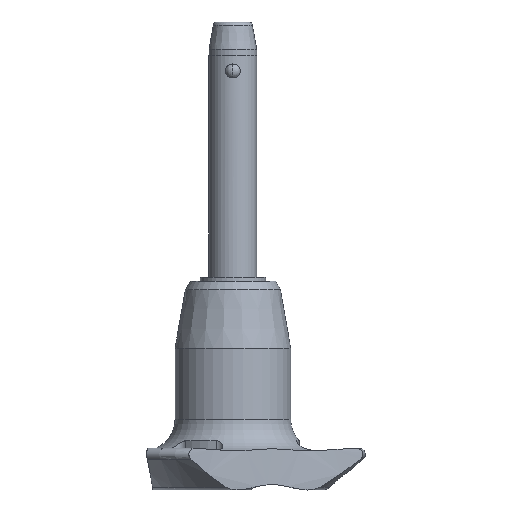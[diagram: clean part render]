
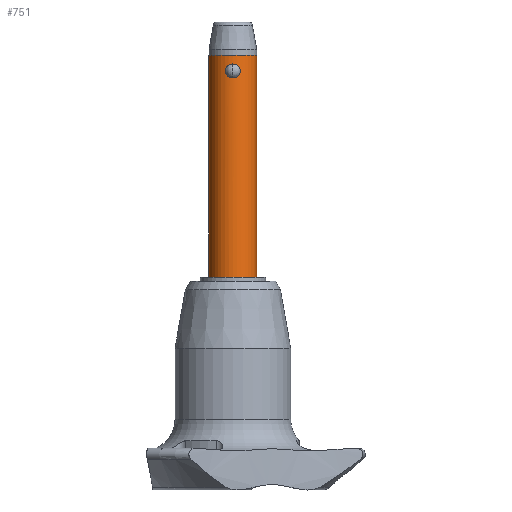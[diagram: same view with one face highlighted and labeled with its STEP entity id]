
A CAD part, front view. The second image highlights one B-rep face of the part: STEP entity #751.
In plain terms, the highlighted cylindrical face has radius 3 mm (diameter 6 mm), a partial arc.
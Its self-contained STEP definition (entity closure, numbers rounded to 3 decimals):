
#30 = CARTESIAN_POINT ( 'NONE',  ( -0.563, -2.948, 1.57 ) ) ;
#40 = VERTEX_POINT ( 'NONE', #131 ) ;
#43 = CARTESIAN_POINT ( 'NONE',  ( -0.812, -2.889, 0.414 ) ) ;
#68 = EDGE_CURVE ( 'NONE', #1561, #1976, #2764, .T. ) ;
#74 = CARTESIAN_POINT ( 'NONE',  ( -0.74, -2.909, 0.318 ) ) ;
#87 = CARTESIAN_POINT ( 'NONE',  ( 0., -3., 1.732 ) ) ;
#131 = CARTESIAN_POINT ( 'NONE',  ( 0., -3., 0. ) ) ;
#177 = EDGE_CURVE ( 'NONE', #1561, #1147, #1146, .T. ) ;
#179 = DIRECTION ( 'NONE',  ( 0., 0., 1. ) ) ;
#185 = CARTESIAN_POINT ( 'NONE',  ( 3., 0., -25. ) ) ;
#198 = DIRECTION ( 'NONE',  ( 0., 0., 1. ) ) ;
#205 = CARTESIAN_POINT ( 'NONE',  ( 0.238, -2.993, 1.712 ) ) ;
#341 = DIRECTION ( 'NONE',  ( 0., 0., 1. ) ) ;
#343 = CARTESIAN_POINT ( 'NONE',  ( -3., 0., 2.8 ) ) ;
#371 = AXIS2_PLACEMENT_3D ( 'NONE', #1047, #2298, #1632 ) ;
#391 = LINE ( 'NONE', #1722, #1730 ) ;
#423 = FACE_BOUND ( 'NONE', #2291, .T. ) ;
#468 = AXIS2_PLACEMENT_3D ( 'NONE', #1945, #2574, #1309 ) ;
#474 = CARTESIAN_POINT ( 'NONE',  ( -0.937, -2.85, 0.749 ) ) ;
#488 = VERTEX_POINT ( 'NONE', #87 ) ;
#495 = CARTESIAN_POINT ( 'NONE',  ( -0.564, -2.948, 0.162 ) ) ;
#640 = CARTESIAN_POINT ( 'NONE',  ( 0.12, -3., 1.732 ) ) ;
#655 = CARTESIAN_POINT ( 'NONE',  ( 0.74, -2.909, 1.414 ) ) ;
#680 = CARTESIAN_POINT ( 'NONE',  ( -0.739, -2.909, 1.414 ) ) ;
#712 = CARTESIAN_POINT ( 'NONE',  ( -0.811, -2.889, 1.319 ) ) ;
#751 = ADVANCED_FACE ( 'NONE', ( #1323, #423 ), #2125, .T. ) ;
#778 = B_SPLINE_CURVE_WITH_KNOTS ( 'NONE', 3,
 ( #926, #1113, #1967, #1781, #30, #680, #712, #2637, #1568, #474, #1333, #43, #74, #495, #1354, #2204, #942, #1233 ),
 .UNSPECIFIED., .F., .F.,
 ( 4, 2, 2, 2, 2, 2, 2, 2, 4 ),
 ( 0., 0., 0.001, 0.001, 0.001, 0.002, 0.002, 0.002, 0.003 ),
 .UNSPECIFIED. ) ;
#836 = CARTESIAN_POINT ( 'NONE',  ( 0.461, -2.966, 1.63 ) ) ;
#862 = CARTESIAN_POINT ( 'NONE',  ( 0.118, -3., 0. ) ) ;
#926 = CARTESIAN_POINT ( 'NONE',  ( 0., -3., 1.732 ) ) ;
#942 = CARTESIAN_POINT ( 'NONE',  ( -0.118, -3., 0. ) ) ;
#1005 = EDGE_CURVE ( 'NONE', #2722, #1976, #2434, .T. ) ;
#1047 = CARTESIAN_POINT ( 'NONE',  ( 0., 0., 2.8 ) ) ;
#1065 = DIRECTION ( 'NONE',  ( 1., 0., 0. ) ) ;
#1082 = CARTESIAN_POINT ( 'NONE',  ( 0.459, -2.967, 0.101 ) ) ;
#1084 = ORIENTED_EDGE ( 'NONE', *, *, #1417, .F. ) ;
#1113 = CARTESIAN_POINT ( 'NONE',  ( -0.12, -3., 1.732 ) ) ;
#1146 = CIRCLE ( 'NONE', #468, 3. ) ;
#1147 = VERTEX_POINT ( 'NONE', #1183 ) ;
#1183 = CARTESIAN_POINT ( 'NONE',  ( -3., 0., -25. ) ) ;
#1233 = CARTESIAN_POINT ( 'NONE',  ( 0., -3., 0. ) ) ;
#1237 = EDGE_CURVE ( 'NONE', #40, #488, #1330, .T. ) ;
#1278 = CARTESIAN_POINT ( 'NONE',  ( 0.738, -2.909, 0.317 ) ) ;
#1288 = CARTESIAN_POINT ( 'NONE',  ( 0.91, -2.859, 0.626 ) ) ;
#1309 = DIRECTION ( 'NONE',  ( 1., 0., 0. ) ) ;
#1323 = FACE_OUTER_BOUND ( 'NONE', #2377, .T. ) ;
#1330 = B_SPLINE_CURVE_WITH_KNOTS ( 'NONE', 3,
 ( #1897, #862, #1956, #1082, #2132, #1278, #1913, #1288, #2753, #1476, #1939, #1501, #655, #2314, #836, #205, #640, #1711 ),
 .UNSPECIFIED., .F., .F.,
 ( 4, 2, 2, 2, 2, 2, 2, 2, 4 ),
 ( 0.003, 0.003, 0.004, 0.004, 0.004, 0.005, 0.005, 0.005, 0.006 ),
 .UNSPECIFIED. ) ;
#1333 = CARTESIAN_POINT ( 'NONE',  ( -0.911, -2.859, 0.63 ) ) ;
#1354 = CARTESIAN_POINT ( 'NONE',  ( -0.46, -2.967, 0.101 ) ) ;
#1365 = ORIENTED_EDGE ( 'NONE', *, *, #2420, .F. ) ;
#1382 = ORIENTED_EDGE ( 'NONE', *, *, #1237, .F. ) ;
#1407 = ORIENTED_EDGE ( 'NONE', *, *, #177, .F. ) ;
#1417 = EDGE_CURVE ( 'NONE', #488, #40, #778, .T. ) ;
#1476 = CARTESIAN_POINT ( 'NONE',  ( 0.937, -2.85, 0.985 ) ) ;
#1501 = CARTESIAN_POINT ( 'NONE',  ( 0.812, -2.888, 1.317 ) ) ;
#1545 = CARTESIAN_POINT ( 'NONE',  ( 3., 0., 2.8 ) ) ;
#1551 = CARTESIAN_POINT ( 'NONE',  ( 3., 0., -25. ) ) ;
#1561 = VERTEX_POINT ( 'NONE', #1551 ) ;
#1568 = CARTESIAN_POINT ( 'NONE',  ( -0.937, -2.85, 0.986 ) ) ;
#1632 = DIRECTION ( 'NONE',  ( 1., 0., 0. ) ) ;
#1684 = VECTOR ( 'NONE', #341, 1000. ) ;
#1711 = CARTESIAN_POINT ( 'NONE',  ( 0., -3., 1.732 ) ) ;
#1722 = CARTESIAN_POINT ( 'NONE',  ( -3., 0., -25. ) ) ;
#1730 = VECTOR ( 'NONE', #179, 1000. ) ;
#1781 = CARTESIAN_POINT ( 'NONE',  ( -0.461, -2.967, 1.63 ) ) ;
#1802 = ORIENTED_EDGE ( 'NONE', *, *, #68, .T. ) ;
#1897 = CARTESIAN_POINT ( 'NONE',  ( 0., -3., 0. ) ) ;
#1913 = CARTESIAN_POINT ( 'NONE',  ( 0.811, -2.889, 0.412 ) ) ;
#1939 = CARTESIAN_POINT ( 'NONE',  ( 0.911, -2.859, 1.103 ) ) ;
#1945 = CARTESIAN_POINT ( 'NONE',  ( 0., 0., -25. ) ) ;
#1956 = CARTESIAN_POINT ( 'NONE',  ( 0.238, -2.993, 0.021 ) ) ;
#1967 = CARTESIAN_POINT ( 'NONE',  ( -0.238, -2.993, 1.712 ) ) ;
#1976 = VERTEX_POINT ( 'NONE', #1545 ) ;
#2125 = CYLINDRICAL_SURFACE ( 'NONE', #2202, 3. ) ;
#2132 = CARTESIAN_POINT ( 'NONE',  ( 0.563, -2.948, 0.162 ) ) ;
#2146 = CARTESIAN_POINT ( 'NONE',  ( 0., 0., -25. ) ) ;
#2202 = AXIS2_PLACEMENT_3D ( 'NONE', #2146, #198, #1065 ) ;
#2204 = CARTESIAN_POINT ( 'NONE',  ( -0.238, -2.993, 0.021 ) ) ;
#2291 = EDGE_LOOP ( 'NONE', ( #1084, #1382 ) ) ;
#2298 = DIRECTION ( 'NONE',  ( 0., 0., 1. ) ) ;
#2309 = ORIENTED_EDGE ( 'NONE', *, *, #1005, .F. ) ;
#2314 = CARTESIAN_POINT ( 'NONE',  ( 0.564, -2.948, 1.57 ) ) ;
#2377 = EDGE_LOOP ( 'NONE', ( #1365, #1407, #1802, #2309 ) ) ;
#2420 = EDGE_CURVE ( 'NONE', #1147, #2722, #391, .T. ) ;
#2434 = CIRCLE ( 'NONE', #371, 3. ) ;
#2574 = DIRECTION ( 'NONE',  ( 0., 0., -1. ) ) ;
#2637 = CARTESIAN_POINT ( 'NONE',  ( -0.91, -2.859, 1.105 ) ) ;
#2722 = VERTEX_POINT ( 'NONE', #343 ) ;
#2753 = CARTESIAN_POINT ( 'NONE',  ( 0.937, -2.85, 0.744 ) ) ;
#2764 = LINE ( 'NONE', #185, #1684 ) ;
